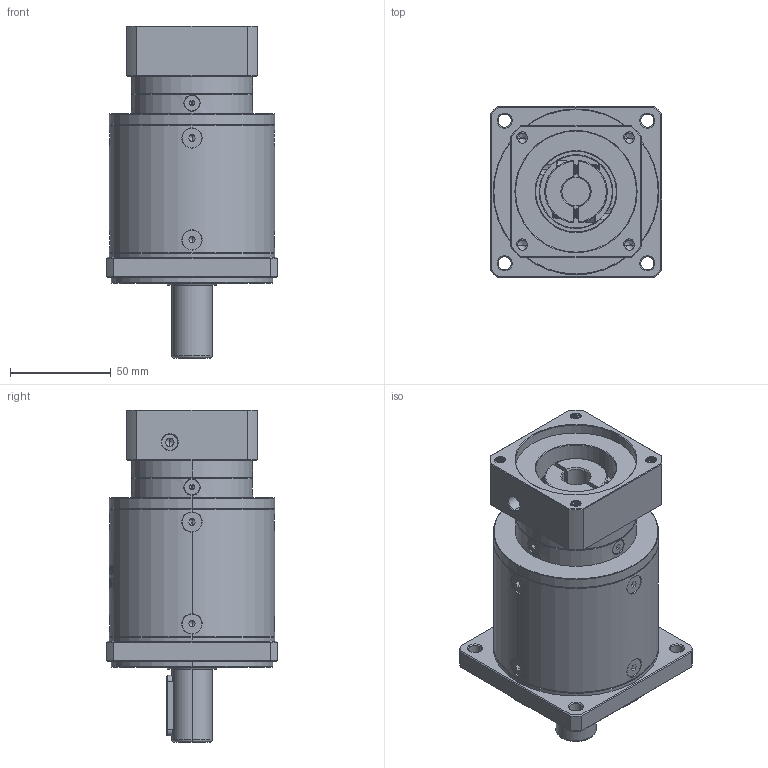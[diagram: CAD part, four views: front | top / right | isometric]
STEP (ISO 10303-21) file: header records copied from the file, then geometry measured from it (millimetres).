
FILE_DESCRIPTION (( 'STEP AP214' ), '1' );
FILE_NAME ('ZF080-D20-L3-P2-14-60-75-M6.step', '2023-08-19T06:54:42', ( '' ), ( '' ), 'SwSTEP 2.0', 'SolidWorks 2016', '' );
FILE_SCHEMA (( 'AUTOMOTIVE_DESIGN' ));
Length unit declared in the file: millimetre
Products named in the file (1): ZF080-D20-L3-P2-14-60-75-M6
Bounding box: 85 x 85 x 164.5 mm (x, y, z)
Volume: 584357.3 mm3; surface area: 75738.4 mm2
Topology: 18 solids, 18 shells, 2302 faces, 6056 edges, 3856 vertices
Faces by surface type: plane 1128, cylinder 411, bspline 394, cone 327, torus 42
Entity records: 122241 total; most frequent: CARTESIAN_POINT 45040, ORIENTED_EDGE 12036, DIRECTION 9061, EDGE_CURVE 6018, VERTEX_POINT 3856, VECTOR 3193, LINE 3193, AXIS2_PLACEMENT_3D 2934
